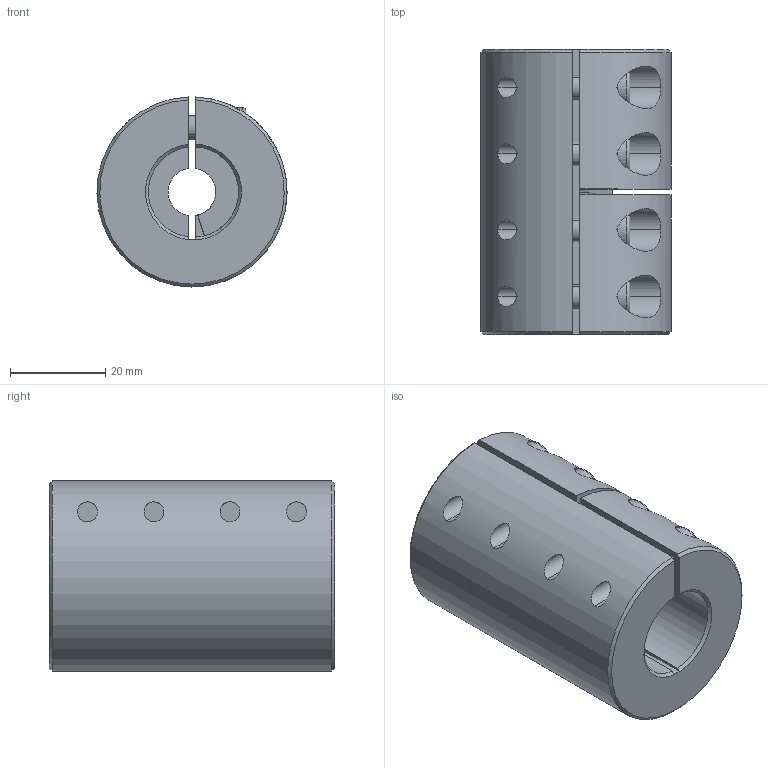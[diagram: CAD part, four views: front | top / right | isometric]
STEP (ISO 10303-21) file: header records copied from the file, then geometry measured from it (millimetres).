
FILE_DESCRIPTION (( 'STEP AP214' ), '1' );
FILE_NAME ('LL-B-D40L60-19-19½¨Ä£.STEP', '2022-07-22T01:04:57', ( '' ), ( '' ), 'SwSTEP 2.0', 'SolidWorks 2022', '' );
FILE_SCHEMA (( 'AUTOMOTIVE_DESIGN' ));
Length unit declared in the file: millimetre
Products named in the file (1): LL-B-D40L60-19-19膘耀
Bounding box: 40 x 60 x 39.99 mm (x, y, z)
Volume: 61098.4 mm3; surface area: 17562 mm2
Topology: 1 solids, 1 shells, 182 faces, 463 edges, 291 vertices
Faces by surface type: plane 88, cylinder 71, cone 15, torus 8
Entity records: 6017 total; most frequent: CARTESIAN_POINT 1531, DIRECTION 969, ORIENTED_EDGE 910, EDGE_CURVE 455, AXIS2_PLACEMENT_3D 377, VERTEX_POINT 291, VECTOR 215, LINE 215
